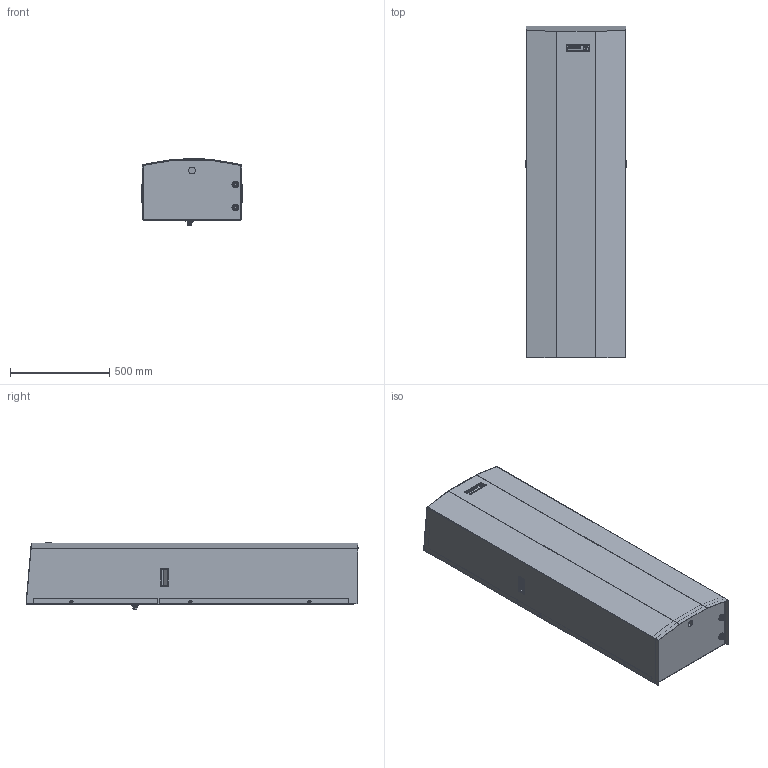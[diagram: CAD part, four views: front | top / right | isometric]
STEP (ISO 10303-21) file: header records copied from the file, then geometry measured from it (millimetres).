
FILE_DESCRIPTION (( 'STEP AP203' ), '1' );
FILE_NAME ('PWS 31002.STEP', '2017-11-21T19:56:31', ( '' ), ( '' ), 'SwSTEP 2.0', 'SolidWorks 2015', '' );
FILE_SCHEMA (( 'CONFIG_CONTROL_DESIGN' ));
Length unit declared in the file: millimetre
Products named in the file (11): 825500030_825500030; 80030-041_802002103; US-Low profile Flush Pull handle_820700000; 885000105_885000105; 015080031; 085110180; 80030-036_No Knockout; 80000-008_885000136; 020140042_020140042; PWS 31002; 850380034
Assembly tree (26 placements, depth 2):
  PWS 31002
    80030-036_No Knockout
    020140042_020140042  x15
    850380034  x2
    825500030_825500030
    80030-041_802002103
    US-Low profile Flush Pull handle_820700000  x2
    885000105_885000105
    015080031
    085110180
    80000-008_885000136
Bounding box: 504.43 x 1674.22 x 338.06 mm (x, y, z)
Volume: 4056499.5 mm3; surface area: 6306893.1 mm2
Topology: 77 solids, 78 shells, 4606 faces, 11960 edges, 7768 vertices
Faces by surface type: plane 2353, cylinder 1001, bspline 962, cone 196, torus 86, sphere 8
Entity records: 208196 total; most frequent: CARTESIAN_POINT 121778, ORIENTED_EDGE 19222, DIRECTION 14232, EDGE_CURVE 9611, VERTEX_POINT 6296, LINE 6138, VECTOR 6138, EDGE_LOOP 4191
